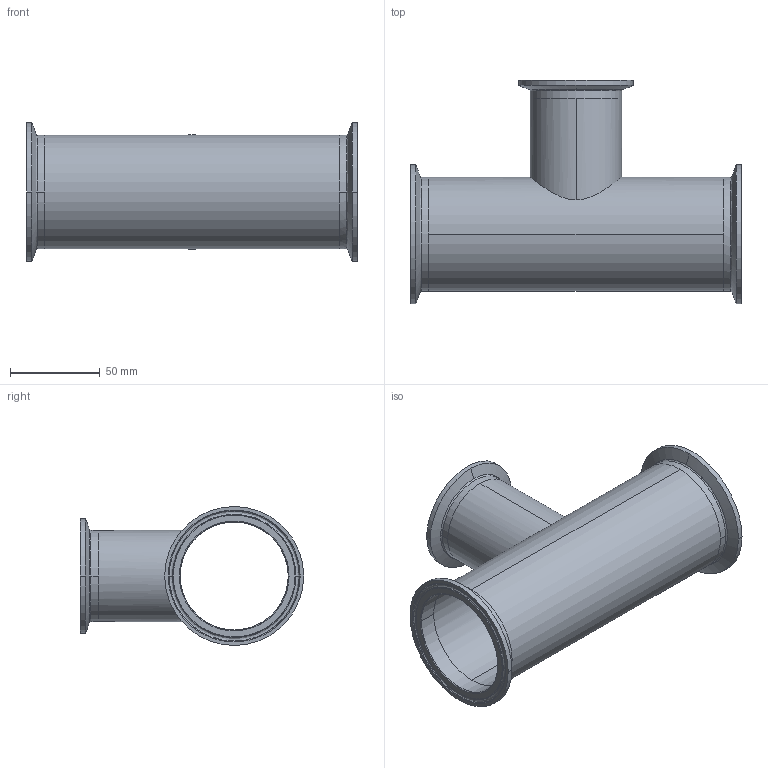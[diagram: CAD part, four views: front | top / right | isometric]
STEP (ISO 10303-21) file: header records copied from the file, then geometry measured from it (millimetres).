
FILE_DESCRIPTION (( 'STEP AP214' ), '1' );
FILE_NAME ('TEG7R6L2.5x2.0-...STEP', '2016-05-24T06:55:45', ( 'eran' ), ( '' ), 'SwSTEP 2.0', 'SolidWorks 2016', '' );
FILE_SCHEMA (( 'AUTOMOTIVE_DESIGN' ));
Length unit declared in the file: millimetre
Products named in the file (1): TEG7R6L2.5x2.0-..
Bounding box: 184.2 x 124.4 x 77.39 mm (x, y, z)
Volume: 87426.9 mm3; surface area: 96652.4 mm2
Topology: 4 solids, 4 shells, 86 faces, 214 edges, 140 vertices
Faces by surface type: bspline 30, cylinder 26, cone 18, plane 12
Entity records: 4964 total; most frequent: CARTESIAN_POINT 2849, DIRECTION 454, ORIENTED_EDGE 428, EDGE_CURVE 214, AXIS2_PLACEMENT_3D 205, CIRCLE 148, VERTEX_POINT 140, EDGE_LOOP 100
